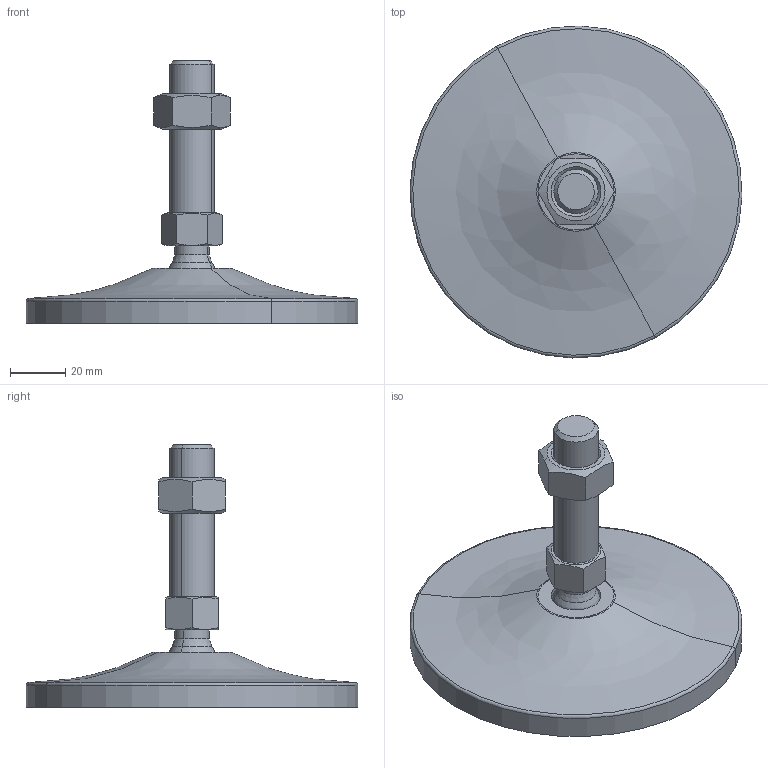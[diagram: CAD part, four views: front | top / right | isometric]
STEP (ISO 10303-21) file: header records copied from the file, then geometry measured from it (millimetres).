
FILE_DESCRIPTION(('CATIA V5 STEP Exchange'),'2;1');
FILE_NAME('C:\Users\ALI OZGUN\Desktop\alhan\saplama2\560121610.stp','2017-09-21T10:35:45+00:00',('none'),('none'),'CATIA Version 5 Release 21 GA (IN-10)','CATIA V5 STEP AP203','none');
FILE_SCHEMA(('CONFIG_CONTROL_DESIGN'));
Length unit declared in the file: millimetre
Products named in the file (1): 560121610
Bounding box: 119.97 x 119.97 x 95 mm (x, y, z)
Volume: 106197.8 mm3; surface area: 35343.4 mm2
Topology: 3 solids, 3 shells, 60 faces, 136 edges, 83 vertices
Faces by surface type: plane 20, cone 16, cylinder 14, torus 4, revolution 4, sphere 2
Entity records: 1857 total; most frequent: CARTESIAN_POINT 615, ORIENTED_EDGE 268, DIRECTION 185, EDGE_CURVE 134, AXIS2_PLACEMENT_3D 99, VERTEX_POINT 83, EDGE_LOOP 67, ADVANCED_FACE 60
